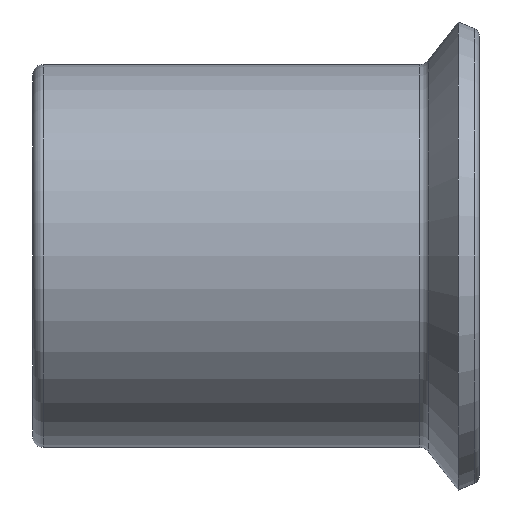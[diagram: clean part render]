
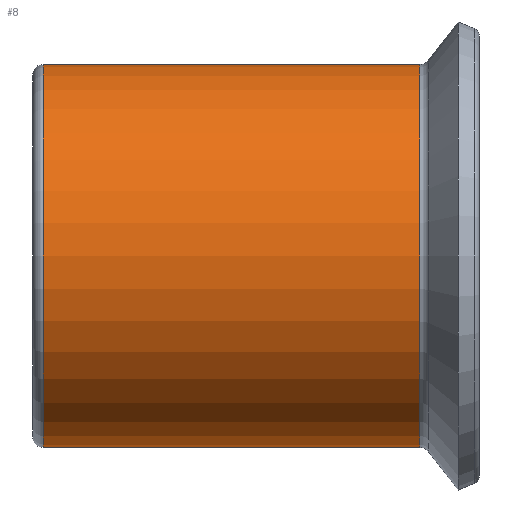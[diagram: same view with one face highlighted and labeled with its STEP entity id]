
A CAD part, left-side view. The second image highlights one B-rep face of the part: STEP entity #8.
In plain terms, the highlighted cylindrical face has radius 4.5 mm (diameter 9 mm), a partial arc.
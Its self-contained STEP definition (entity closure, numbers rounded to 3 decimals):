
#8 = ADVANCED_FACE ( 'NONE', ( #661 ), #189, .T. ) ;
#21 = CARTESIAN_POINT ( 'NONE',  ( 0., 53.08, 0. ) ) ;
#45 = VECTOR ( 'NONE', #654, 1000. ) ;
#51 = CARTESIAN_POINT ( 'NONE',  ( 0., 53.08, -4.5 ) ) ;
#66 = LINE ( 'NONE', #51, #45 ) ;
#88 = ORIENTED_EDGE ( 'NONE', *, *, #176, .T. ) ;
#90 = DIRECTION ( 'NONE',  ( 0., 1., 0. ) ) ;
#92 = CARTESIAN_POINT ( 'NONE',  ( 0., -0.25, -4.5 ) ) ;
#121 = DIRECTION ( 'NONE',  ( 0., 0., 1. ) ) ;
#158 = ORIENTED_EDGE ( 'NONE', *, *, #443, .F. ) ;
#173 = AXIS2_PLACEMENT_3D ( 'NONE', #429, #501, #121 ) ;
#176 = EDGE_CURVE ( 'NONE', #626, #440, #562, .T. ) ;
#189 = CYLINDRICAL_SURFACE ( 'NONE', #248, 4.5 ) ;
#191 = ORIENTED_EDGE ( 'NONE', *, *, #239, .T. ) ;
#212 = EDGE_LOOP ( 'NONE', ( #158, #191, #88, #800 ) ) ;
#216 = EDGE_CURVE ( 'NONE', #440, #719, #579, .T. ) ;
#239 = EDGE_CURVE ( 'NONE', #685, #626, #409, .T. ) ;
#242 = VECTOR ( 'NONE', #494, 1000. ) ;
#248 = AXIS2_PLACEMENT_3D ( 'NONE', #21, #90, #551 ) ;
#249 = CARTESIAN_POINT ( 'NONE',  ( 0., -9.1, 0. ) ) ;
#303 = CARTESIAN_POINT ( 'NONE',  ( 0., 53.08, 4.5 ) ) ;
#310 = AXIS2_PLACEMENT_3D ( 'NONE', #249, #320, #826 ) ;
#320 = DIRECTION ( 'NONE',  ( 0., 1., 0. ) ) ;
#409 = CIRCLE ( 'NONE', #310, 4.5 ) ;
#429 = CARTESIAN_POINT ( 'NONE',  ( 0., -0.25, 0. ) ) ;
#440 = VERTEX_POINT ( 'NONE', #725 ) ;
#443 = EDGE_CURVE ( 'NONE', #685, #719, #66, .T. ) ;
#485 = CARTESIAN_POINT ( 'NONE',  ( 0., -9.1, -4.5 ) ) ;
#494 = DIRECTION ( 'NONE',  ( 0., 1., 0. ) ) ;
#501 = DIRECTION ( 'NONE',  ( 0., -1., 0. ) ) ;
#551 = DIRECTION ( 'NONE',  ( 0., 0., 1. ) ) ;
#562 = LINE ( 'NONE', #303, #242 ) ;
#579 = CIRCLE ( 'NONE', #173, 4.5 ) ;
#598 = CARTESIAN_POINT ( 'NONE',  ( 0., -9.1, 4.5 ) ) ;
#626 = VERTEX_POINT ( 'NONE', #598 ) ;
#654 = DIRECTION ( 'NONE',  ( 0., 1., 0. ) ) ;
#661 = FACE_OUTER_BOUND ( 'NONE', #212, .T. ) ;
#685 = VERTEX_POINT ( 'NONE', #485 ) ;
#719 = VERTEX_POINT ( 'NONE', #92 ) ;
#725 = CARTESIAN_POINT ( 'NONE',  ( 0., -0.25, 4.5 ) ) ;
#800 = ORIENTED_EDGE ( 'NONE', *, *, #216, .T. ) ;
#826 = DIRECTION ( 'NONE',  ( 0., 0., 1. ) ) ;
